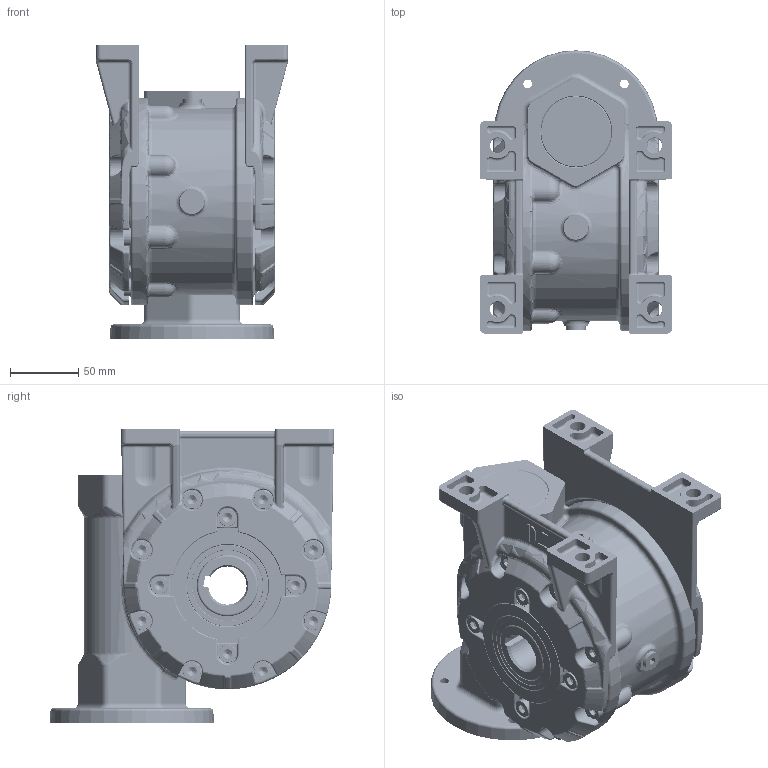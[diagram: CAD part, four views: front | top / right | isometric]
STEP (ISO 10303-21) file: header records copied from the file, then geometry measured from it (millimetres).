
FILE_DESCRIPTION (( 'STEP AP214' ), '1' );
FILE_NAME ('Sestava MRT70A-V.STEP', '2007-03-28T11:51:46', ( '' ), ( '' ), 'SwSTEP 2.0', 'SolidWorks 2004146', '' );
FILE_SCHEMA (( 'AUTOMOTIVE_DESIGN' ));
Length unit declared in the file: millimetre
Products named in the file (18): Adaptér patky 70_Výchozí; Šnekové kolo MRT70_Výchozí; n029401b_Tìsnìní AS 45x60x8 DIN 3760-NB; n029401b_Tìsnìní AS 30x47x7 DIN 3760-NB; D6912_Šroub DIN 6912 - M8x20; D6912_Šroub DIN 6912 - M6x16; D6912_Šroub DIN 6912 - M8x16; pøíruba 100-60_Výchozí; priruba70FT_Výchozí; Sestava MRT70A-V; N024720_Ložisko SKF 32006 X ÈSN 024720; NBRvíèko_52x7; D472A_Kroužek 52 ÈSN 022931; skøíò 70_Výchozí; N024630_Ložisko ZKL 6009A ÈSN 024630; N024720_Ložisko SKF 30205 ÈSN 024720; Snek_70AP80_Výchozí; ZatkaM10x1DIN908_M10x1
Assembly tree (40 placements, depth 2):
  Sestava MRT70A-V
    D6912_Šroub DIN 6912 - M8x16  x8
    n029401b_Tìsnìní AS 30x47x7 DIN 3760-NB
    D6912_Šroub DIN 6912 - M8x20  x8
    D6912_Šroub DIN 6912 - M6x16  x6
    ZatkaM10x1DIN908_M10x1  x2
    n029401b_Tìsnìní AS 45x60x8 DIN 3760-NB  x2
    Adaptér patky 70_Výchozí  x2
    N024630_Ložisko ZKL 6009A ÈSN 024630  x2
    skøíò 70_Výchozí
    Šnekové kolo MRT70_Výchozí
    NBRvíèko_52x7
    pøíruba 100-60_Výchozí
    D472A_Kroužek 52 ÈSN 022931
    priruba70FT_Výchozí
    Snek_70AP80_Výchozí
    N024720_Ložisko SKF 30205 ÈSN 024720
    N024720_Ložisko SKF 32006 X ÈSN 024720
Bounding box: 141 x 208 x 216 mm (x, y, z)
Volume: 1778461.9 mm3; surface area: 560248.4 mm2
Topology: 40 solids, 40 shells, 5152 faces, 12554 edges, 7129 vertices
Faces by surface type: cylinder 1181, torus 1114, bspline 1089, plane 897, cone 681, sphere 190
Entity records: 435535 total; most frequent: CARTESIAN_POINT 357364, ORIENTED_EDGE 16824, DIRECTION 15702, EDGE_CURVE 8412, AXIS2_PLACEMENT_3D 6977, VERTEX_POINT 4981, CIRCLE 4272, EDGE_LOOP 3647
